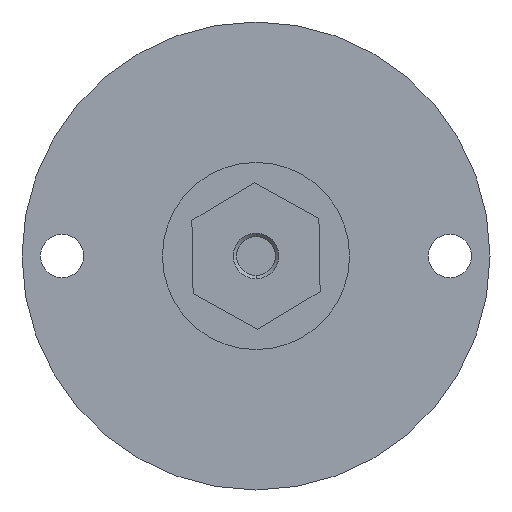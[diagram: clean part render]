
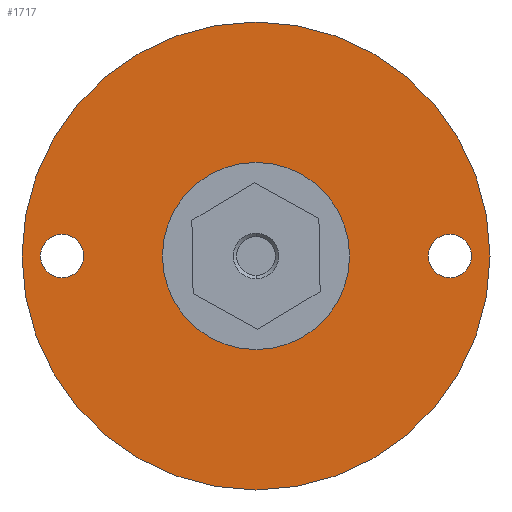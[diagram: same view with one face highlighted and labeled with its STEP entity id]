
A CAD part, front view. The second image highlights one B-rep face of the part: STEP entity #1717.
In plain terms, the highlighted planar face has unit normal (0, -1, 0).
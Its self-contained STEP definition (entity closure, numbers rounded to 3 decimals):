
#15 = VERTEX_POINT ( 'NONE', #1069 ) ;
#106 = CARTESIAN_POINT ( 'NONE',  ( -14., 0., 0. ) ) ;
#121 = DIRECTION ( 'NONE',  ( 0., -1., 0. ) ) ;
#171 = DIRECTION ( 'NONE',  ( -1., 0., 0. ) ) ;
#206 = EDGE_CURVE ( 'NONE', #15, #470, #3465, .T. ) ;
#210 = VERTEX_POINT ( 'NONE', #1894 ) ;
#290 = AXIS2_PLACEMENT_3D ( 'NONE', #2250, #500, #2543 ) ;
#331 = CIRCLE ( 'NONE', #780, 3.25 ) ;
#376 = EDGE_CURVE ( 'NONE', #1799, #955, #331, .T. ) ;
#440 = VERTEX_POINT ( 'NONE', #1228 ) ;
#470 = VERTEX_POINT ( 'NONE', #3004 ) ;
#486 = CIRCLE ( 'NONE', #2988, 3.25 ) ;
#500 = DIRECTION ( 'NONE',  ( 0., -1., 0. ) ) ;
#543 = CARTESIAN_POINT ( 'NONE',  ( -14., 0., 0. ) ) ;
#578 = FACE_BOUND ( 'NONE', #2493, .T. ) ;
#708 = EDGE_CURVE ( 'NONE', #440, #3210, #2891, .T. ) ;
#780 = AXIS2_PLACEMENT_3D ( 'NONE', #3708, #1930, #171 ) ;
#815 = DIRECTION ( 'NONE',  ( 0., 1., 0. ) ) ;
#870 = DIRECTION ( 'NONE',  ( 0., -1., 0. ) ) ;
#900 = ORIENTED_EDGE ( 'NONE', *, *, #1974, .T. ) ;
#955 = VERTEX_POINT ( 'NONE', #2212 ) ;
#1069 = CARTESIAN_POINT ( 'NONE',  ( -29., 0., -3.25 ) ) ;
#1090 = ORIENTED_EDGE ( 'NONE', *, *, #3428, .T. ) ;
#1109 = AXIS2_PLACEMENT_3D ( 'NONE', #543, #815, #2882 ) ;
#1147 = DIRECTION ( 'NONE',  ( 0., -1., 0. ) ) ;
#1167 = VERTEX_POINT ( 'NONE', #3445 ) ;
#1226 = CARTESIAN_POINT ( 'NONE',  ( 29., 0., 0. ) ) ;
#1228 = CARTESIAN_POINT ( 'NONE',  ( 14., 0., 0. ) ) ;
#1302 = DIRECTION ( 'NONE',  ( 0., 1., 0. ) ) ;
#1340 = FACE_BOUND ( 'NONE', #2598, .T. ) ;
#1524 = DIRECTION ( 'NONE',  ( -1., 0., 0. ) ) ;
#1529 = CIRCLE ( 'NONE', #1708, 14. ) ;
#1555 = ORIENTED_EDGE ( 'NONE', *, *, #1846, .F. ) ;
#1605 = EDGE_LOOP ( 'NONE', ( #3407, #900 ) ) ;
#1608 = CARTESIAN_POINT ( 'NONE',  ( -29., 0., 0. ) ) ;
#1708 = AXIS2_PLACEMENT_3D ( 'NONE', #2912, #1147, #3209 ) ;
#1717 = ADVANCED_FACE ( 'NONE', ( #578, #1340, #2916, #3621 ), #3479, .F. ) ;
#1799 = VERTEX_POINT ( 'NONE', #3182 ) ;
#1846 = EDGE_CURVE ( 'NONE', #3210, #440, #1529, .T. ) ;
#1875 = CARTESIAN_POINT ( 'NONE',  ( 0., 0., 0. ) ) ;
#1894 = CARTESIAN_POINT ( 'NONE',  ( 35., 0., 0. ) ) ;
#1914 = DIRECTION ( 'NONE',  ( -1., 0., 0. ) ) ;
#1930 = DIRECTION ( 'NONE',  ( 0., 1., 0. ) ) ;
#1957 = CIRCLE ( 'NONE', #2496, 35. ) ;
#1974 = EDGE_CURVE ( 'NONE', #1167, #210, #1957, .T. ) ;
#2055 = EDGE_LOOP ( 'NONE', ( #3665, #1555 ) ) ;
#2180 = DIRECTION ( 'NONE',  ( 1., 0., 0. ) ) ;
#2212 = CARTESIAN_POINT ( 'NONE',  ( 29., 0., -3.25 ) ) ;
#2250 = CARTESIAN_POINT ( 'NONE',  ( 0., 0., 0. ) ) ;
#2306 = ORIENTED_EDGE ( 'NONE', *, *, #206, .T. ) ;
#2333 = AXIS2_PLACEMENT_3D ( 'NONE', #1608, #3687, #1914 ) ;
#2427 = AXIS2_PLACEMENT_3D ( 'NONE', #1875, #121, #2180 ) ;
#2493 = EDGE_LOOP ( 'NONE', ( #1090, #2306 ) ) ;
#2496 = AXIS2_PLACEMENT_3D ( 'NONE', #2655, #870, #2936 ) ;
#2543 = DIRECTION ( 'NONE',  ( 1., 0., 0. ) ) ;
#2590 = CIRCLE ( 'NONE', #2333, 3.25 ) ;
#2598 = EDGE_LOOP ( 'NONE', ( #3418, #3598 ) ) ;
#2655 = CARTESIAN_POINT ( 'NONE',  ( 0., 0., 0. ) ) ;
#2882 = DIRECTION ( 'NONE',  ( -1., 0., 0. ) ) ;
#2891 = CIRCLE ( 'NONE', #2427, 14. ) ;
#2912 = CARTESIAN_POINT ( 'NONE',  ( 0., 0., 0. ) ) ;
#2916 = FACE_BOUND ( 'NONE', #2055, .T. ) ;
#2936 = DIRECTION ( 'NONE',  ( 1., 0., 0. ) ) ;
#2988 = AXIS2_PLACEMENT_3D ( 'NONE', #1226, #3291, #1524 ) ;
#2998 = EDGE_CURVE ( 'NONE', #955, #1799, #486, .T. ) ;
#3004 = CARTESIAN_POINT ( 'NONE',  ( -29., 0., 3.25 ) ) ;
#3061 = CARTESIAN_POINT ( 'NONE',  ( -29., 0., 0. ) ) ;
#3182 = CARTESIAN_POINT ( 'NONE',  ( 29., 0., 3.25 ) ) ;
#3209 = DIRECTION ( 'NONE',  ( 1., 0., 0. ) ) ;
#3210 = VERTEX_POINT ( 'NONE', #106 ) ;
#3291 = DIRECTION ( 'NONE',  ( 0., 1., 0. ) ) ;
#3349 = AXIS2_PLACEMENT_3D ( 'NONE', #3061, #1302, #3374 ) ;
#3374 = DIRECTION ( 'NONE',  ( -1., 0., 0. ) ) ;
#3407 = ORIENTED_EDGE ( 'NONE', *, *, #3613, .T. ) ;
#3418 = ORIENTED_EDGE ( 'NONE', *, *, #376, .T. ) ;
#3428 = EDGE_CURVE ( 'NONE', #470, #15, #2590, .T. ) ;
#3445 = CARTESIAN_POINT ( 'NONE',  ( -35., 0., 0. ) ) ;
#3465 = CIRCLE ( 'NONE', #3349, 3.25 ) ;
#3479 = PLANE ( 'NONE',  #1109 ) ;
#3598 = ORIENTED_EDGE ( 'NONE', *, *, #2998, .T. ) ;
#3613 = EDGE_CURVE ( 'NONE', #210, #1167, #3794, .T. ) ;
#3621 = FACE_OUTER_BOUND ( 'NONE', #1605, .T. ) ;
#3665 = ORIENTED_EDGE ( 'NONE', *, *, #708, .F. ) ;
#3687 = DIRECTION ( 'NONE',  ( 0., 1., 0. ) ) ;
#3708 = CARTESIAN_POINT ( 'NONE',  ( 29., 0., 0. ) ) ;
#3794 = CIRCLE ( 'NONE', #290, 35. ) ;
